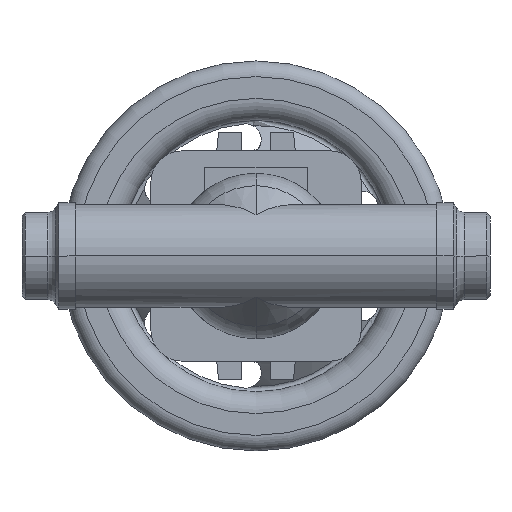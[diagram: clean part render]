
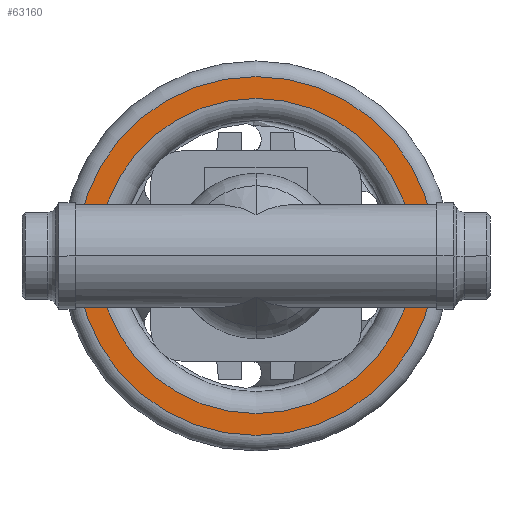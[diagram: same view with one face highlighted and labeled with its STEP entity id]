
A CAD part, front view. The second image highlights one B-rep face of the part: STEP entity #63160.
In plain terms, the highlighted planar face has unit normal (0, -1, 0).
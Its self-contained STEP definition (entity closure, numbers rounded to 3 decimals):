
#62510=CARTESIAN_POINT('',(132.5,214.3,0.));
#62520=VERTEX_POINT('',#62510);
#62550=CARTESIAN_POINT('',(75.,214.3,0.));
#62560=DIRECTION('',(0.,1.,0.));
#62570=DIRECTION('',(-1.,0.,0.));
#62580=AXIS2_PLACEMENT_3D('',#62550,#62560,#62570);
#62590=CIRCLE('',#62580,57.5);
#62600=CARTESIAN_POINT('',(75.,214.3,57.5));
#62610=VERTEX_POINT('',#62600);
#62620=EDGE_CURVE('',#62610,#62520,#62590,.T.);
#62640=CARTESIAN_POINT('',(17.5,214.3,0.));
#62650=VERTEX_POINT('',#62640);
#62660=EDGE_CURVE('',#62650,#62610,#62590,.T.);
#62860=CARTESIAN_POINT('',(21.,214.3,0.));
#62870=DIRECTION('',(0.,-1.,0.));
#62880=DIRECTION('',(1.,0.,0.));
#62890=AXIS2_PLACEMENT_3D('',#62860,#62870,#62880);
#62900=PLANE('',#62890);
#62910=ORIENTED_EDGE('',*,*,#62620,.F.);
#62920=EDGE_CURVE('',#62520,#62650,#62590,.T.);
#62930=ORIENTED_EDGE('',*,*,#62920,.F.);
#62940=ORIENTED_EDGE('',*,*,#62660,.F.);
#62950=EDGE_LOOP('',(#62940,#62930,#62910));
#62960=FACE_OUTER_BOUND('',#62950,.T.);
#62970=CARTESIAN_POINT('',(75.,214.3,0.));
#62980=DIRECTION('',(0.,1.,0.));
#62990=DIRECTION('',(-1.,0.,0.));
#63000=AXIS2_PLACEMENT_3D('',#62970,#62980,#62990);
#63010=CIRCLE('',#63000,50.5);
#63020=CARTESIAN_POINT('',(125.5,214.3,0.));
#63030=VERTEX_POINT('',#63020);
#63040=CARTESIAN_POINT('',(24.5,214.3,0.));
#63050=VERTEX_POINT('',#63040);
#63060=EDGE_CURVE('',#63030,#63050,#63010,.T.);
#63070=ORIENTED_EDGE('',*,*,#63060,.T.);
#63080=CARTESIAN_POINT('',(75.,214.3,50.5));
#63090=VERTEX_POINT('',#63080);
#63100=EDGE_CURVE('',#63090,#63030,#63010,.T.);
#63110=ORIENTED_EDGE('',*,*,#63100,.T.);
#63120=EDGE_CURVE('',#63050,#63090,#63010,.T.);
#63130=ORIENTED_EDGE('',*,*,#63120,.T.);
#63140=EDGE_LOOP('',(#63130,#63110,#63070));
#63150=FACE_BOUND('',#63140,.T.);
#63160=ADVANCED_FACE('',(#62960,#63150),#62900,.T.);
